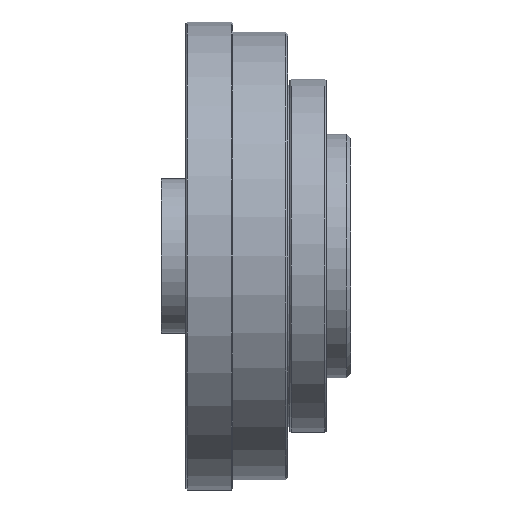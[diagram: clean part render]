
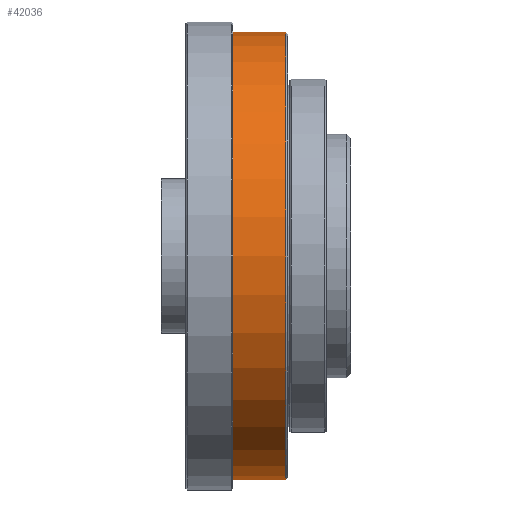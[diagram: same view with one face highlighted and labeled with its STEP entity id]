
A CAD part, front view. The second image highlights one B-rep face of the part: STEP entity #42036.
In plain terms, the highlighted cylindrical face has radius 55 mm (diameter 110 mm), a full revolution.
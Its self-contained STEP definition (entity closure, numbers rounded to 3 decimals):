
#8092 = CIRCLE ( 'NONE', #20565, 55. ) ;
#8315 = DIRECTION ( 'NONE',  ( 1., 0., 0. ) ) ;
#9312 = DIRECTION ( 'NONE',  ( 0., -0.5, 0.866 ) ) ;
#15355 = ORIENTED_EDGE ( 'NONE', *, *, #31607, .T. ) ;
#17742 = CARTESIAN_POINT ( 'NONE',  ( 14.3, 0., 0. ) ) ;
#18721 = DIRECTION ( 'NONE',  ( 0., -0.5, 0.866 ) ) ;
#20565 = AXIS2_PLACEMENT_3D ( 'NONE', #36146, #27728, #18721 ) ;
#27728 = DIRECTION ( 'NONE',  ( -1., 0., 0. ) ) ;
#29777 = FACE_OUTER_BOUND ( 'NONE', #52420, .T. ) ;
#30954 = DIRECTION ( 'NONE',  ( -1., 0., 0. ) ) ;
#31607 = EDGE_CURVE ( 'NONE', #59248, #59248, #8092, .T. ) ;
#34585 = FACE_OUTER_BOUND ( 'NONE', #57363, .T. ) ;
#35565 = CARTESIAN_POINT ( 'NONE',  ( 30.5, -27.5, 47.631 ) ) ;
#36146 = CARTESIAN_POINT ( 'NONE',  ( 30.5, 0., 0. ) ) ;
#36500 = CARTESIAN_POINT ( 'NONE',  ( 14.8, 0., 0. ) ) ;
#39463 = VERTEX_POINT ( 'NONE', #58062 ) ;
#42036 = ADVANCED_FACE ( 'NONE', ( #34585, #29777 ), #43582, .T. ) ;
#43582 = CYLINDRICAL_SURFACE ( 'NONE', #49414, 55. ) ;
#49414 = AXIS2_PLACEMENT_3D ( 'NONE', #17742, #30954, #9312 ) ;
#49698 = DIRECTION ( 'NONE',  ( 0., -0.5, 0.866 ) ) ;
#50718 = CIRCLE ( 'NONE', #51700, 55. ) ;
#51700 = AXIS2_PLACEMENT_3D ( 'NONE', #36500, #8315, #49698 ) ;
#52420 = EDGE_LOOP ( 'NONE', ( #15355 ) ) ;
#53746 = ORIENTED_EDGE ( 'NONE', *, *, #56892, .T. ) ;
#56892 = EDGE_CURVE ( 'NONE', #39463, #39463, #50718, .T. ) ;
#57363 = EDGE_LOOP ( 'NONE', ( #53746 ) ) ;
#58062 = CARTESIAN_POINT ( 'NONE',  ( 14.8, -27.5, 47.631 ) ) ;
#59248 = VERTEX_POINT ( 'NONE', #35565 ) ;
